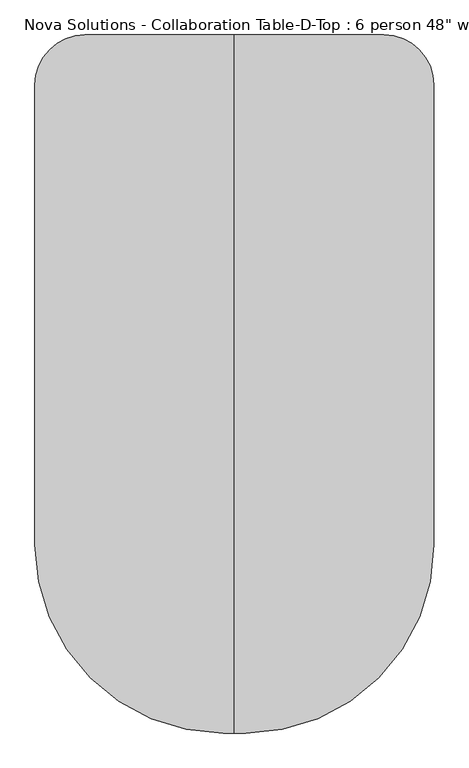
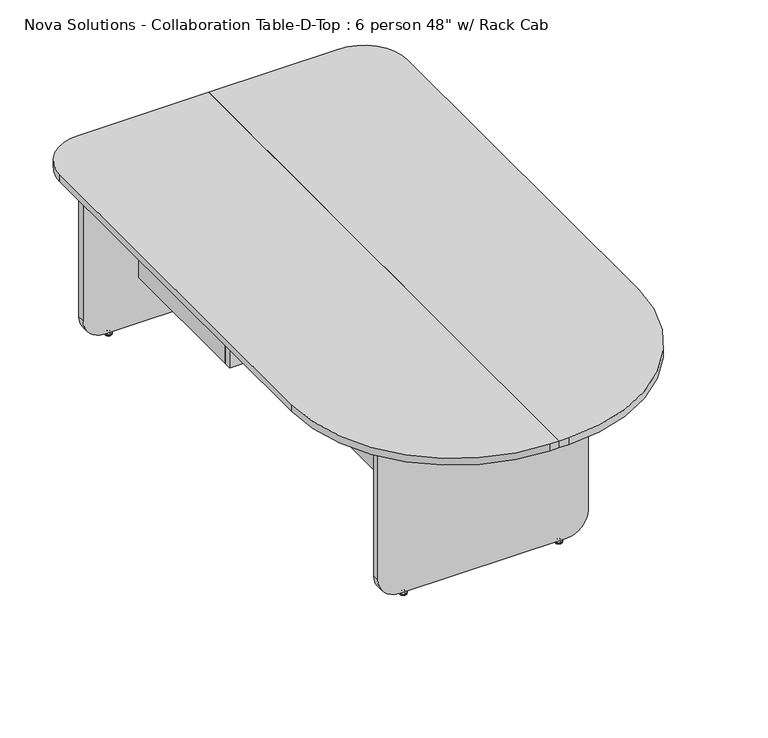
"""IFC4 building model written with IfcOpenShell, lengths in millimetres: furniture geometry."""

import ifcopenshell
import ifcopenshell.guid

model = None  # the IFC model being written
_history = None  # IfcOwnerHistory: only IFC2X3 demands one
_inside = {}  # id of a spatial element -> (the spatial element, [elements in it])
_under = {}  # id of a project, library or spatial element -> (it, [spatial elements below it])
_declared = {}  # id of a project -> (the project, [libraries it declares])
_typed = {}  # id of a type object -> (the type object, [elements of that type])
_made_of = {}  # id of a material, layer set ... -> (it, [elements and type objects made of it])


def new_model(schema):
    """Start an empty IFC model of exactly this schema.

    Asked for "IFC4X3", IfcOpenShell would pick the latest addendum, in which some entities
    have other attributes; the version numbers below select the first issue.
    IFC2X3 requires an IfcOwnerHistory on every rooted entity: one is made here for all.
    """
    global model, _history
    if schema == "IFC4X3":
        model = ifcopenshell.file(schema_version=(4, 3, 0, 0))
    else:
        model = ifcopenshell.file(schema=schema)
    _inside.clear()
    _under.clear()
    _declared.clear()
    _typed.clear()
    _made_of.clear()
    _history = None
    if model.schema == "IFC2X3":
        org = make("IfcOrganization", Name="unknown")
        user = make(
            "IfcPersonAndOrganization",
            ThePerson=make("IfcPerson", FamilyName="unknown"),
            TheOrganization=org,
        )
        app = make(
            "IfcApplication",
            ApplicationDeveloper=org,
            Version="unknown",
            ApplicationFullName="unknown",
            ApplicationIdentifier="unknown",
        )
        _history = make(
            "IfcOwnerHistory",
            OwningUser=user,
            OwningApplication=app,
            ChangeAction="ADDED",
            CreationDate=0,
        )
    return model


def make(cls, **values):
    """One entity of the class cls with the attributes given. An attribute that is None is left unset."""
    return model.create_entity(
        cls, **{name: value for name, value in values.items() if value is not None}
    )


def rooted(cls, **values):
    """An entity with a GlobalId (a new one), such as an element, a storey or a relation."""
    return make(cls, GlobalId=ifcopenshell.guid.new(), OwnerHistory=_history, **values)


def si_unit(unit_type, name, prefix=None):
    """IfcSIUnit, for example si_unit("LENGTHUNIT", "METRE", prefix="MILLI")."""
    return make("IfcSIUnit", UnitType=unit_type, Prefix=prefix, Name=name)


def assignment(units):
    """IfcUnitAssignment: the units of a project."""
    return None if units is None else make("IfcUnitAssignment", Units=units)


def point(xyz):
    """IfcCartesianPoint."""
    return None if xyz is None else make("IfcCartesianPoint", Coordinates=xyz)


def direction(xyz):
    """IfcDirection."""
    return None if xyz is None else make("IfcDirection", DirectionRatios=xyz)


def frame(location, z_axis=None, x_axis=None):
    """IfcAxis2Placement3D, a coordinate frame: its origin and axes. An axis left out is left unset."""
    return make(
        "IfcAxis2Placement3D",
        Location=point(location),
        Axis=direction(z_axis),
        RefDirection=direction(x_axis),
    )


def frame_2d(location, x_axis=None):
    """IfcAxis2Placement2D, a coordinate frame in the plane: its origin and x axis."""
    return make(
        "IfcAxis2Placement2D", Location=point(location), RefDirection=direction(x_axis)
    )


def origin():
    """The frame at (0, 0, 0) with its axes left unset."""
    return frame((0.0, 0.0, 0.0))


def place(relative_to, where):
    """IfcLocalPlacement: puts the frame where relative to a parent placement (None: the world)."""
    return make(
        "IfcLocalPlacement", PlacementRelTo=relative_to, RelativePlacement=where
    )


def context(
    kind, dimensions, precision=None, world=None, true_north=None, identifier=None
):
    """IfcGeometricRepresentationContext, for example the 3D "Model" context."""
    return make(
        "IfcGeometricRepresentationContext",
        ContextIdentifier=identifier,
        ContextType=kind,
        CoordinateSpaceDimension=dimensions,
        Precision=precision,
        WorldCoordinateSystem=world,
        TrueNorth=true_north,
    )


def project(units=None, contexts=None):
    """IfcProject with its units and contexts."""
    return rooted(
        "IfcProject",
        Name="project",
        RepresentationContexts=contexts,
        UnitsInContext=assignment(units),
    )


def spatial(cls, under=None, at=None, **own):
    """A site, building, storey or space (cls), placed at a placement, below another one or the project."""
    s = rooted(cls, ObjectPlacement=at, **own)
    if under is not None:
        _under.setdefault(under.id(), (under, []))[1].append(s)
    return s


def polyline(points):
    """IfcPolyline through the points."""
    return make("IfcPolyline", Points=[point(p) for p in points])


def circle_curve(where, radius):
    """IfcCircle in the frame where."""
    return make("IfcCircle", Position=where, Radius=radius)


def ellipse_curve(where, semi_axis1, semi_axis2):
    """IfcEllipse in the frame where."""
    return make(
        "IfcEllipse", Position=where, SemiAxis1=semi_axis1, SemiAxis2=semi_axis2
    )


def trimmed(basis, trim1, trim2, sense, master):
    """IfcTrimmedCurve: the piece of a basis curve between two trims."""
    return make(
        "IfcTrimmedCurve",
        BasisCurve=basis,
        Trim1=trim1,
        Trim2=trim2,
        SenseAgreement=sense,
        MasterRepresentation=master,
    )


def segment(curve, same_sense, transition):
    """IfcCompositeCurveSegment."""
    return make(
        "IfcCompositeCurveSegment",
        Transition=transition,
        SameSense=same_sense,
        ParentCurve=curve,
    )


def composite_curve(segments, self_intersect=None):
    """IfcCompositeCurve: segments joined end to end."""
    return make("IfcCompositeCurve", Segments=segments, SelfIntersect=self_intersect)


def outline(outer, holes=None, kind="AREA"):
    """IfcArbitraryClosedProfileDef: a profile drawn as a closed curve; with holes, ...WithVoids."""
    if holes is None:
        return make("IfcArbitraryClosedProfileDef", ProfileType=kind, OuterCurve=outer)
    return make(
        "IfcArbitraryProfileDefWithVoids",
        ProfileType=kind,
        OuterCurve=outer,
        InnerCurves=holes,
    )


def extrude(swept, where, along, depth):
    """IfcExtrudedAreaSolid: the profile swept, set in the frame where, extruded along a direction by depth."""
    return make(
        "IfcExtrudedAreaSolid",
        SweptArea=swept,
        Position=where,
        ExtrudedDirection=direction(along),
        Depth=depth,
    )


def shape(context_of_items, identifier, shape_type, items):
    """IfcShapeRepresentation: the items that make up one representation, for example the "Body"."""
    return make(
        "IfcShapeRepresentation",
        ContextOfItems=context_of_items,
        RepresentationIdentifier=identifier,
        RepresentationType=shape_type,
        Items=items,
    )


def source(mapping_origin, context_of_items, identifier, shape_type, items):
    """IfcRepresentationMap: a shape defined once, which mapped items show again and again."""
    return make(
        "IfcRepresentationMap",
        MappingOrigin=mapping_origin,
        MappedRepresentation=shape(context_of_items, identifier, shape_type, items),
    )


def transform(
    local_origin,
    x_axis=None,
    y_axis=None,
    z_axis=None,
    scale=None,
    scale2=None,
    scale3=None,
    uniform=True,
):
    """IfcCartesianTransformationOperator3D, or its non-uniform kind. x_axis, y_axis, z_axis: its Axis1, 2, 3."""
    if uniform:
        return make(
            "IfcCartesianTransformationOperator3D",
            Axis1=direction(x_axis),
            Axis2=direction(y_axis),
            LocalOrigin=point(local_origin),
            Scale=scale,
            Axis3=direction(z_axis),
        )
    return make(
        "IfcCartesianTransformationOperator3DnonUniform",
        Axis1=direction(x_axis),
        Axis2=direction(y_axis),
        LocalOrigin=point(local_origin),
        Scale=scale,
        Axis3=direction(z_axis),
        Scale2=scale2,
        Scale3=scale3,
    )


def mapped(mapping_source, mapping_target):
    """IfcMappedItem: shows the shape of a source again, moved by a transform."""
    return make(
        "IfcMappedItem", MappingSource=mapping_source, MappingTarget=mapping_target
    )


def made_of(thing, what):
    """Note that an element or type object is made of a material, layer set ...; save() writes the relation."""
    if what is not None:
        _made_of.setdefault(what.id(), (what, []))[1].append(thing)
    return thing


def element(
    cls,
    number,
    at=None,
    inside=None,
    cuts=None,
    type_object=None,
    material=None,
    context=None,
    identifier="Body",
    shape_type=None,
    held_by="IfcProductDefinitionShape",
    body=None,
    shapes=None,
    **own,
):
    """One element of the class cls, such as IfcWall. Its Tag is "e" and its number.

    at: its placement. inside: the storey or other place that contains it. cuts: it is an
    opening in that element (IfcRelVoidsElement). A single representation is given by context,
    identifier, shape_type and body (its items); several are given by shapes. held_by: the class
    of the entity that holds the representations. save() writes the other relations.
    """
    e = rooted(cls, Tag="e%d" % number, ObjectPlacement=at, **own)
    if body is not None:
        shapes = [shape(context, identifier, shape_type, body)]
    if shapes is not None:
        e.Representation = make(held_by, Representations=shapes)
    if inside is not None:
        _inside.setdefault(inside.id(), (inside, []))[1].append(e)
    if cuts is not None:
        rooted(
            "IfcRelVoidsElement", RelatingBuildingElement=cuts, RelatedOpeningElement=e
        )
    if type_object is not None:
        _typed.setdefault(type_object.id(), (type_object, []))[1].append(e)
    return made_of(e, material)


def aggregate(whole, parts):
    """IfcRelAggregates: a whole, such as a stair, and the parts it consists of."""
    return rooted("IfcRelAggregates", RelatingObject=whole, RelatedObjects=parts)


def save(model, path):
    """Write the relations noted so far, then the file.

    IfcRelAggregates (storeys below a building ...), IfcRelContainedInSpatialStructure (elements
    in a storey), IfcRelDefinesByType, IfcRelAssociatesMaterial and IfcRelDeclares: one each for
    every whole, place, type object, material and project.
    """
    for whole, parts in _under.values():
        aggregate(whole, parts)
    for where, things in _inside.values():
        rooted(
            "IfcRelContainedInSpatialStructure",
            RelatedElements=things,
            RelatingStructure=where,
        )
    for kind, things in _typed.values():
        rooted("IfcRelDefinesByType", RelatedObjects=things, RelatingType=kind)
    for what, things in _made_of.values():
        rooted("IfcRelAssociatesMaterial", RelatedObjects=things, RelatingMaterial=what)
    for by, libraries in _declared.values():
        rooted("IfcRelDeclares", RelatingContext=by, RelatedDefinitions=libraries)
    model.write(path)


def plane_surface(at):
    """IfcPlane: the flat surface through the origin of the frame at, square to its z axis."""
    return make("IfcPlane", Position=at)


def cylinder_surface(at, radius):
    """IfcCylindricalSurface: all points at the distance radius from the z axis of the frame at."""
    return make("IfcCylindricalSurface", Position=at, Radius=radius)


def revolved_surface(curve, axis_point, axis_direction):
    """IfcSurfaceOfRevolution: the curve turned about the line through axis_point along axis_direction."""
    return make(
        "IfcSurfaceOfRevolution",
        SweptCurve=make("IfcArbitraryOpenProfileDef", ProfileType="CURVE", Curve=curve),
        AxisPosition=make("IfcAxis1Placement", Location=point(axis_point), Axis=direction(axis_direction)),
    )


def advanced_brep(points, edges, surfaces, faces):
    """IfcAdvancedBrep: a solid bounded by faces that lie on surfaces and meet in shared edges.

    An edge is (start, end): straight between two places in points (the first is 0);
    or (start, end, curve); or (start, end, curve, False) where it runs against its curve.
    A face is (place in surfaces, loops), or (place, loops, False) where it looks against
    its surface's normal. A loop lists edges by number (the first is 1), with a minus sign
    where the edge is run from its end to its start. The first loop is the outer one.
    """
    corners = [point(p) for p in points]
    vertices = [make("IfcVertexPoint", VertexGeometry=c) for c in corners]
    made = []
    for start, end, *more in edges:
        made.append(
            make(
                "IfcEdgeCurve",
                EdgeStart=vertices[start],
                EdgeEnd=vertices[end],
                EdgeGeometry=more[0] if more else make("IfcPolyline", Points=[corners[start], corners[end]]),
                SameSense=more[1] if len(more) > 1 else True,
            )
        )
    hull = []
    for where, loops, *sense in faces:
        bounds = []
        for j, loop in enumerate(loops):
            ring = [make("IfcOrientedEdge", EdgeElement=made[abs(k) - 1], Orientation=k > 0) for k in loop]
            bounds.append(
                make(
                    "IfcFaceOuterBound" if j == 0 else "IfcFaceBound",
                    Bound=make("IfcEdgeLoop", EdgeList=ring),
                    Orientation=True,
                )
            )
        hull.append(make("IfcAdvancedFace", Bounds=bounds, FaceSurface=surfaces[where], SameSense=sense[0] if sense else True))
    return make("IfcAdvancedBrep", Outer=make("IfcClosedShell", CfsFaces=hull))


def furniture_79b6fda6(model_context):
    return source(origin(), model_context, "Body", "SolidModel", [
        extrude(outline(polyline([(-261.75, 1038.2), (-245.55, 1038.2), (-245.55, 510.8), (-261.75, 510.8), (-261.75, 1038.2)])), frame((0.0, 0.0, 181.85), z_axis=(0.0, 0.0, 1.0), x_axis=(1.0, 0.0, 0.0)), (0.0, 0.0, 1.0), 553.0),
        extrude(outline(polyline([(245.55, 1038.2), (261.75, 1038.2), (261.75, 510.8), (245.55, 510.8), (245.55, 1038.2)])), frame((0.0, 0.0, 181.85), z_axis=(0.0, 0.0, 1.0), x_axis=(1.0, 0.0, 0.0)), (0.0, 0.0, 1.0), 553.0),
        extrude(outline(polyline([(-136.57, 485.1), (-136.57, -576.1), (-152.77, -576.1), (-152.77, 485.1), (-136.57, 485.1)])), frame((0.0, 0.0, 181.85), z_axis=(0.0, 0.0, 1.0), x_axis=(1.0, 0.0, 0.0)), (0.0, 0.0, 1.0), 553.0),
        extrude(outline(polyline([(136.57, 485.1), (152.77, 485.1), (152.77, -576.1), (136.57, -576.1), (136.57, 485.1)])), frame((0.0, 0.0, 181.85), z_axis=(0.0, 0.0, 1.0), x_axis=(1.0, 0.0, 0.0)), (0.0, 0.0, 1.0), 553.0),
        advanced_brep(
        [(361.0578125, 1057.7276506, 11.1125), (361.0578125, 1044.3723494, 11.1125), (361.0578125, 1051.05, 11.1125), (361.0578125, 1057.7276506, 9.525), (361.0578125, 1044.3723494, 9.525), (361.0578125, 1062.9355135, 4.7748687), (361.0578125, 1039.1644865, 4.7748687), (361.0578125, 1063.7966506, 3.989419), (361.0578125, 1038.3033494, 3.989419), (361.0578125, 1063.7966506, 3.175), (361.0578125, 1038.3033494, 3.175), (361.0578125, 1062.9459119, 0.0), (361.0578125, 1039.1540881, 0.0), (361.0578125, 1051.05, 0.0)],
        [
            (0, 1, circle_curve(frame((361.0578125, 1051.05, 11.1125), z_axis=(0.0, 0.0, 1.0), x_axis=(0.0, -1.0, 0.0)), 6.6776506)),
            (1, 2),
            (2, 0),
            (1, 0, circle_curve(frame((361.0578125, 1051.05, 11.1125), z_axis=(0.0, 0.0, 1.0), x_axis=(0.0, -1.0, 0.0)), 6.6776506)),
            (3, 4, circle_curve(frame((361.0578125, 1051.05, 9.525), z_axis=(0.0, 0.0, 1.0), x_axis=(0.0, -1.0, 0.0)), 6.6776506)),
            (4, 1),
            (0, 3),
            (4, 3, circle_curve(frame((361.0578125, 1051.05, 9.525), z_axis=(0.0, 0.0, 1.0), x_axis=(0.0, -1.0, 0.0)), 6.6776506)),
            (5, 6, circle_curve(frame((361.0578125, 1051.05, 4.7748687), z_axis=(0.0, 0.0, 1.0), x_axis=(0.0, -1.0, 0.0)), 11.8855135)),
            (6, 4, circle_curve(frame((361.0578125, 1038.1179373, 11.1521822), z_axis=(1.0, 0.0, 0.0), x_axis=(0.0, 1.0, 0.0)), 6.462615)),
            (3, 5, circle_curve(frame((361.0578125, 1063.9820627, 11.1521822), z_axis=(1.0, 0.0, 0.0), x_axis=(0.0, -1.0, 0.0)), 6.462615)),
            (6, 5, circle_curve(frame((361.0578125, 1051.05, 4.7748687), z_axis=(0.0, 0.0, 1.0), x_axis=(0.0, -1.0, 0.0)), 11.8855135)),
            (7, 8, circle_curve(frame((361.0578125, 1051.05, 3.989419), z_axis=(0.0, 0.0, 1.0), x_axis=(0.0, -1.0, 0.0)), 12.7466506)),
            (8, 6, circle_curve(frame((361.0578125, 1039.3375368, 3.7203591), z_axis=(-1.0, 0.0, 0.0), x_axis=(0.0, 1.0, 0.0)), 1.0686145)),
            (5, 7, circle_curve(frame((361.0578125, 1062.7624632, 3.7203591), z_axis=(-1.0, 0.0, 0.0), x_axis=(0.0, -1.0, 0.0)), 1.0686145)),
            (8, 7, circle_curve(frame((361.0578125, 1051.05, 3.989419), z_axis=(0.0, 0.0, 1.0), x_axis=(0.0, -1.0, 0.0)), 12.7466506)),
            (9, 10, circle_curve(frame((361.0578125, 1051.05, 3.175), z_axis=(0.0, 0.0, 1.0), x_axis=(0.0, -1.0, 0.0)), 12.7466506)),
            (10, 8),
            (7, 9),
            (10, 9, circle_curve(frame((361.0578125, 1051.05, 3.175), z_axis=(0.0, 0.0, 1.0), x_axis=(0.0, -1.0, 0.0)), 12.7466506)),
            (11, 12, circle_curve(frame((361.0578125, 1051.05, 0.0), z_axis=(0.0, 0.0, 1.0), x_axis=(0.0, -1.0, 0.0)), 11.8959119)),
            (12, 10),
            (9, 11),
            (12, 11, circle_curve(frame((361.0578125, 1051.05, 0.0), z_axis=(0.0, 0.0, 1.0), x_axis=(0.0, -1.0, 0.0)), 11.8959119)),
            (13, 12),
            (11, 13),
        ],
        [
            plane_surface(frame((361.0578125, 1051.05, 11.1125), z_axis=(0.0, 0.0, 1.0), x_axis=(0.0, -1.0, 0.0))),
            cylinder_surface(frame((361.0578125, 1051.05, 43.2095994), z_axis=(0.0, 0.0, -1.0), x_axis=(0.0, -1.0, 0.0)), 6.6776506),
            revolved_surface(trimmed(ellipse_curve(frame((361.0578125, 1038.1179373, 11.1521822), z_axis=(-1.0, 0.0, 0.0), x_axis=(0.0, 1.0, 0.0)), 6.462615, 6.462615), [point((361.0578125, 1044.3723494, 9.525))], [point((361.0578125, 1039.1644865, 4.7748687))], True, "CARTESIAN"), (361.0578125, 1051.05, 43.2095994), (0.0, 0.0, -1.0)),
            revolved_surface(trimmed(ellipse_curve(frame((361.0578125, 1039.3375368, 3.7203591), z_axis=(1.0, 0.0, 0.0), x_axis=(0.0, 1.0, 0.0)), 1.0686145, 1.0686145), [point((361.0578125, 1039.1644865, 4.7748687))], [point((361.0578125, 1038.3033494, 3.989419))], True, "CARTESIAN"), (361.0578125, 1051.05, 43.2095994), (0.0, 0.0, -1.0)),
            cylinder_surface(frame((361.0578125, 1051.05, 43.2095994), z_axis=(0.0, 0.0, -1.0), x_axis=(0.0, -1.0, 0.0)), 12.7466506),
            revolved_surface(polyline([(361.0578125, 1038.3033494, 3.175), (361.0578125, 1039.1540881, 0.0)]), (361.0578125, 1051.05, 43.2095994), (0.0, 0.0, -1.0)),
            plane_surface(frame((361.0578125, 1051.05, 0.0), z_axis=(0.0, 0.0, -1.0), x_axis=(0.0, -1.0, 0.0))),
        ],
        [
            (0, [[1, 2, 3]]),
            (0, [[4, -3, -2]]),
            (1, [[5, 6, -1, 7]]),
            (1, [[8, -7, -4, -6]]),
            (2, [[9, 10, -5, 11]]),
            (2, [[12, -11, -8, -10]]),
            (3, [[13, 14, -9, 15]]),
            (3, [[16, -15, -12, -14]]),
            (4, [[17, 18, -13, 19]]),
            (4, [[20, -19, -16, -18]]),
            (5, [[21, 22, -17, 23]]),
            (5, [[24, -23, -20, -22]]),
            (6, [[25, -21, 26]]),
            (6, [[-26, -24, -25]]),
        ],
    ),
        advanced_brep(
        [(-361.0578125, 1057.7276506, 11.1125), (-361.0578125, 1044.3723494, 11.1125), (-361.0578125, 1051.05, 11.1125), (-361.0578125, 1057.7276506, 9.525), (-361.0578125, 1044.3723494, 9.525), (-361.0578125, 1062.9355135, 4.7748687), (-361.0578125, 1039.1644865, 4.7748687), (-361.0578125, 1063.7966506, 3.989419), (-361.0578125, 1038.3033494, 3.989419), (-361.0578125, 1063.7966506, 3.175), (-361.0578125, 1038.3033494, 3.175), (-361.0578125, 1062.9459119, 0.0), (-361.0578125, 1039.1540881, 0.0), (-361.0578125, 1051.05, 0.0)],
        [
            (0, 1, circle_curve(frame((-361.0578125, 1051.05, 11.1125), z_axis=(0.0, 0.0, 1.0), x_axis=(0.0, -1.0, 0.0)), 6.6776506)),
            (1, 2),
            (2, 0),
            (1, 0, circle_curve(frame((-361.0578125, 1051.05, 11.1125), z_axis=(0.0, 0.0, 1.0), x_axis=(0.0, -1.0, 0.0)), 6.6776506)),
            (3, 4, circle_curve(frame((-361.0578125, 1051.05, 9.525), z_axis=(0.0, 0.0, 1.0), x_axis=(0.0, -1.0, 0.0)), 6.6776506)),
            (4, 1),
            (0, 3),
            (4, 3, circle_curve(frame((-361.0578125, 1051.05, 9.525), z_axis=(0.0, 0.0, 1.0), x_axis=(0.0, -1.0, 0.0)), 6.6776506)),
            (5, 6, circle_curve(frame((-361.0578125, 1051.05, 4.7748687), z_axis=(0.0, 0.0, 1.0), x_axis=(0.0, -1.0, 0.0)), 11.8855135)),
            (6, 4, circle_curve(frame((-361.0578125, 1038.1179373, 11.1521822), z_axis=(1.0, 0.0, 0.0), x_axis=(0.0, 1.0, 0.0)), 6.462615)),
            (3, 5, circle_curve(frame((-361.0578125, 1063.9820627, 11.1521822), z_axis=(1.0, 0.0, 0.0), x_axis=(0.0, -1.0, 0.0)), 6.462615)),
            (6, 5, circle_curve(frame((-361.0578125, 1051.05, 4.7748687), z_axis=(0.0, 0.0, 1.0), x_axis=(0.0, -1.0, 0.0)), 11.8855135)),
            (7, 8, circle_curve(frame((-361.0578125, 1051.05, 3.989419), z_axis=(0.0, 0.0, 1.0), x_axis=(0.0, -1.0, 0.0)), 12.7466506)),
            (8, 6, circle_curve(frame((-361.0578125, 1039.3375368, 3.7203591), z_axis=(-1.0, 0.0, 0.0), x_axis=(0.0, 1.0, 0.0)), 1.0686145)),
            (5, 7, circle_curve(frame((-361.0578125, 1062.7624632, 3.7203591), z_axis=(-1.0, 0.0, 0.0), x_axis=(0.0, -1.0, 0.0)), 1.0686145)),
            (8, 7, circle_curve(frame((-361.0578125, 1051.05, 3.989419), z_axis=(0.0, 0.0, 1.0), x_axis=(0.0, -1.0, 0.0)), 12.7466506)),
            (9, 10, circle_curve(frame((-361.0578125, 1051.05, 3.175), z_axis=(0.0, 0.0, 1.0), x_axis=(0.0, -1.0, 0.0)), 12.7466506)),
            (10, 8),
            (7, 9),
            (10, 9, circle_curve(frame((-361.0578125, 1051.05, 3.175), z_axis=(0.0, 0.0, 1.0), x_axis=(0.0, -1.0, 0.0)), 12.7466506)),
            (11, 12, circle_curve(frame((-361.0578125, 1051.05, 0.0), z_axis=(0.0, 0.0, 1.0), x_axis=(0.0, -1.0, 0.0)), 11.8959119)),
            (12, 10),
            (9, 11),
            (12, 11, circle_curve(frame((-361.0578125, 1051.05, 0.0), z_axis=(0.0, 0.0, 1.0), x_axis=(0.0, -1.0, 0.0)), 11.8959119)),
            (13, 12),
            (11, 13),
        ],
        [
            plane_surface(frame((-361.0578125, 1051.05, 11.1125), z_axis=(0.0, 0.0, 1.0), x_axis=(0.0, -1.0, 0.0))),
            cylinder_surface(frame((-361.0578125, 1051.05, 43.2095994), z_axis=(0.0, 0.0, -1.0), x_axis=(0.0, -1.0, 0.0)), 6.6776506),
            revolved_surface(trimmed(ellipse_curve(frame((-361.0578125, 1038.1179373, 11.1521822), z_axis=(-1.0, 0.0, 0.0), x_axis=(0.0, 1.0, 0.0)), 6.462615, 6.462615), [point((-361.0578125, 1044.3723494, 9.525))], [point((-361.0578125, 1039.1644865, 4.7748687))], True, "CARTESIAN"), (-361.0578125, 1051.05, 43.2095994), (0.0, 0.0, -1.0)),
            revolved_surface(trimmed(ellipse_curve(frame((-361.0578125, 1039.3375368, 3.7203591), z_axis=(1.0, 0.0, 0.0), x_axis=(0.0, 1.0, 0.0)), 1.0686145, 1.0686145), [point((-361.0578125, 1039.1644865, 4.7748687))], [point((-361.0578125, 1038.3033494, 3.989419))], True, "CARTESIAN"), (-361.0578125, 1051.05, 43.2095994), (0.0, 0.0, -1.0)),
            cylinder_surface(frame((-361.0578125, 1051.05, 43.2095994), z_axis=(0.0, 0.0, -1.0), x_axis=(0.0, -1.0, 0.0)), 12.7466506),
            revolved_surface(polyline([(-361.0578125, 1038.3033494, 3.175), (-361.0578125, 1039.1540881, 0.0)]), (-361.0578125, 1051.05, 43.2095994), (0.0, 0.0, -1.0)),
            plane_surface(frame((-361.0578125, 1051.05, 0.0), z_axis=(0.0, 0.0, -1.0), x_axis=(0.0, -1.0, 0.0))),
        ],
        [
            (0, [[1, 2, 3]]),
            (0, [[4, -3, -2]]),
            (1, [[5, 6, -1, 7]]),
            (1, [[8, -7, -4, -6]]),
            (2, [[9, 10, -5, 11]]),
            (2, [[12, -11, -8, -10]]),
            (3, [[13, 14, -9, 15]]),
            (3, [[16, -15, -12, -14]]),
            (4, [[17, 18, -13, 19]]),
            (4, [[20, -19, -16, -18]]),
            (5, [[21, 22, -17, 23]]),
            (5, [[24, -23, -20, -22]]),
            (6, [[25, -21, 26]]),
            (6, [[-26, -24, -25]]),
        ],
    ),
        extrude(outline(composite_curve([segment(polyline([(734.85, 457.1), (734.85, -457.1), (90.15, -457.1)]), True, "CONTINUOUS"), segment(trimmed(circle_curve(frame_2d((90.15, -381.1)), 76.0), [point((90.15, -457.1))], [point((14.15, -381.1))], False, "CARTESIAN"), True, "CONTINUOUS"), segment(polyline([(14.15, -381.1), (14.15, 381.1)]), True, "CONTINUOUS"), segment(trimmed(circle_curve(frame_2d((90.15, 381.1)), 76.0), [point((14.15, 381.1))], [point((90.15, 457.1))], False, "CARTESIAN"), True, "CONTINUOUS"), segment(polyline([(90.15, 457.1), (734.85, 457.1)]), True, "CONTINUOUS")], self_intersect=False)), frame((0.0, 1038.2, 0.0), z_axis=(0.0, 1.0, 0.0), x_axis=(0.0, 0.0, 1.0)), (0.0, 0.0, 1.0), 25.7),
        advanced_brep(
        [(272.9578125, -582.2723494, 11.1125), (272.9578125, -595.6276506, 11.1125), (272.9578125, -588.95, 11.1125), (272.9578125, -582.2723494, 9.525), (272.9578125, -595.6276506, 9.525), (272.9578125, -577.0644865, 4.7748687), (272.9578125, -600.8355135, 4.7748687), (272.9578125, -576.2033494, 3.989419), (272.9578125, -601.6966506, 3.989419), (272.9578125, -576.2033494, 3.175), (272.9578125, -601.6966506, 3.175), (272.9578125, -577.0540881, 0.0), (272.9578125, -600.8459119, 0.0), (272.9578125, -588.95, 0.0)],
        [
            (0, 1, circle_curve(frame((272.9578125, -588.95, 11.1125), z_axis=(0.0, 0.0, 1.0), x_axis=(0.0, -1.0, 0.0)), 6.6776506)),
            (1, 2),
            (2, 0),
            (1, 0, circle_curve(frame((272.9578125, -588.95, 11.1125), z_axis=(0.0, 0.0, 1.0), x_axis=(0.0, -1.0, 0.0)), 6.6776506)),
            (3, 4, circle_curve(frame((272.9578125, -588.95, 9.525), z_axis=(0.0, 0.0, 1.0), x_axis=(0.0, -1.0, 0.0)), 6.6776506)),
            (4, 1),
            (0, 3),
            (4, 3, circle_curve(frame((272.9578125, -588.95, 9.525), z_axis=(0.0, 0.0, 1.0), x_axis=(0.0, -1.0, 0.0)), 6.6776506)),
            (5, 6, circle_curve(frame((272.9578125, -588.95, 4.7748687), z_axis=(0.0, 0.0, 1.0), x_axis=(0.0, -1.0, 0.0)), 11.8855135)),
            (6, 4, circle_curve(frame((272.9578125, -601.8820627, 11.1521822), z_axis=(1.0, 0.0, 0.0), x_axis=(0.0, 1.0, 0.0)), 6.462615)),
            (3, 5, circle_curve(frame((272.9578125, -576.0179373, 11.1521822), z_axis=(1.0, 0.0, 0.0), x_axis=(0.0, -1.0, 0.0)), 6.462615)),
            (6, 5, circle_curve(frame((272.9578125, -588.95, 4.7748687), z_axis=(0.0, 0.0, 1.0), x_axis=(0.0, -1.0, 0.0)), 11.8855135)),
            (7, 8, circle_curve(frame((272.9578125, -588.95, 3.989419), z_axis=(0.0, 0.0, 1.0), x_axis=(0.0, -1.0, 0.0)), 12.7466506)),
            (8, 6, circle_curve(frame((272.9578125, -600.6624632, 3.7203591), z_axis=(-1.0, 0.0, 0.0), x_axis=(0.0, 1.0, 0.0)), 1.0686145)),
            (5, 7, circle_curve(frame((272.9578125, -577.2375368, 3.7203591), z_axis=(-1.0, 0.0, 0.0), x_axis=(0.0, -1.0, 0.0)), 1.0686145)),
            (8, 7, circle_curve(frame((272.9578125, -588.95, 3.989419), z_axis=(0.0, 0.0, 1.0), x_axis=(0.0, -1.0, 0.0)), 12.7466506)),
            (9, 10, circle_curve(frame((272.9578125, -588.95, 3.175), z_axis=(0.0, 0.0, 1.0), x_axis=(0.0, -1.0, 0.0)), 12.7466506)),
            (10, 8),
            (7, 9),
            (10, 9, circle_curve(frame((272.9578125, -588.95, 3.175), z_axis=(0.0, 0.0, 1.0), x_axis=(0.0, -1.0, 0.0)), 12.7466506)),
            (11, 12, circle_curve(frame((272.9578125, -588.95, 0.0), z_axis=(0.0, 0.0, 1.0), x_axis=(0.0, -1.0, 0.0)), 11.8959119)),
            (12, 10),
            (9, 11),
            (12, 11, circle_curve(frame((272.9578125, -588.95, 0.0), z_axis=(0.0, 0.0, 1.0), x_axis=(0.0, -1.0, 0.0)), 11.8959119)),
            (13, 12),
            (11, 13),
        ],
        [
            plane_surface(frame((272.9578125, -588.95, 11.1125), z_axis=(0.0, 0.0, 1.0), x_axis=(0.0, -1.0, 0.0))),
            cylinder_surface(frame((272.9578125, -588.95, 43.2095994), z_axis=(0.0, 0.0, -1.0), x_axis=(0.0, -1.0, 0.0)), 6.6776506),
            revolved_surface(trimmed(ellipse_curve(frame((272.9578125, -601.8820627, 11.1521822), z_axis=(-1.0, 0.0, 0.0), x_axis=(0.0, 1.0, 0.0)), 6.462615, 6.462615), [point((272.9578125, -595.6276506, 9.525))], [point((272.9578125, -600.8355135, 4.7748687))], True, "CARTESIAN"), (272.9578125, -588.95, 43.2095994), (0.0, 0.0, -1.0)),
            revolved_surface(trimmed(ellipse_curve(frame((272.9578125, -600.6624632, 3.7203591), z_axis=(1.0, 0.0, 0.0), x_axis=(0.0, 1.0, 0.0)), 1.0686145, 1.0686145), [point((272.9578125, -600.8355135, 4.7748687))], [point((272.9578125, -601.6966506, 3.989419))], True, "CARTESIAN"), (272.9578125, -588.95, 43.2095994), (0.0, 0.0, -1.0)),
            cylinder_surface(frame((272.9578125, -588.95, 43.2095994), z_axis=(0.0, 0.0, -1.0), x_axis=(0.0, -1.0, 0.0)), 12.7466506),
            revolved_surface(polyline([(272.9578125, -601.6966506, 3.175), (272.9578125, -600.8459119, 0.0)]), (272.9578125, -588.95, 43.2095994), (0.0, 0.0, -1.0)),
            plane_surface(frame((272.9578125, -588.95, 0.0), z_axis=(0.0, 0.0, -1.0), x_axis=(0.0, -1.0, 0.0))),
        ],
        [
            (0, [[1, 2, 3]]),
            (0, [[4, -3, -2]]),
            (1, [[5, 6, -1, 7]]),
            (1, [[8, -7, -4, -6]]),
            (2, [[9, 10, -5, 11]]),
            (2, [[12, -11, -8, -10]]),
            (3, [[13, 14, -9, 15]]),
            (3, [[16, -15, -12, -14]]),
            (4, [[17, 18, -13, 19]]),
            (4, [[20, -19, -16, -18]]),
            (5, [[21, 22, -17, 23]]),
            (5, [[24, -23, -20, -22]]),
            (6, [[25, -21, 26]]),
            (6, [[-26, -24, -25]]),
        ],
    ),
        advanced_brep(
        [(-272.9578125, -582.2723494, 11.1125), (-272.9578125, -595.6276506, 11.1125), (-272.9578125, -588.95, 11.1125), (-272.9578125, -582.2723494, 9.525), (-272.9578125, -595.6276506, 9.525), (-272.9578125, -577.0644865, 4.7748687), (-272.9578125, -600.8355135, 4.7748687), (-272.9578125, -576.2033494, 3.989419), (-272.9578125, -601.6966506, 3.989419), (-272.9578125, -576.2033494, 3.175), (-272.9578125, -601.6966506, 3.175), (-272.9578125, -577.0540881, 0.0), (-272.9578125, -600.8459119, 0.0), (-272.9578125, -588.95, 0.0)],
        [
            (0, 1, circle_curve(frame((-272.9578125, -588.95, 11.1125), z_axis=(0.0, 0.0, 1.0), x_axis=(0.0, -1.0, 0.0)), 6.6776506)),
            (1, 2),
            (2, 0),
            (1, 0, circle_curve(frame((-272.9578125, -588.95, 11.1125), z_axis=(0.0, 0.0, 1.0), x_axis=(0.0, -1.0, 0.0)), 6.6776506)),
            (3, 4, circle_curve(frame((-272.9578125, -588.95, 9.525), z_axis=(0.0, 0.0, 1.0), x_axis=(0.0, -1.0, 0.0)), 6.6776506)),
            (4, 1),
            (0, 3),
            (4, 3, circle_curve(frame((-272.9578125, -588.95, 9.525), z_axis=(0.0, 0.0, 1.0), x_axis=(0.0, -1.0, 0.0)), 6.6776506)),
            (5, 6, circle_curve(frame((-272.9578125, -588.95, 4.7748687), z_axis=(0.0, 0.0, 1.0), x_axis=(0.0, -1.0, 0.0)), 11.8855135)),
            (6, 4, circle_curve(frame((-272.9578125, -601.8820627, 11.1521822), z_axis=(1.0, 0.0, 0.0), x_axis=(0.0, 1.0, 0.0)), 6.462615)),
            (3, 5, circle_curve(frame((-272.9578125, -576.0179373, 11.1521822), z_axis=(1.0, 0.0, 0.0), x_axis=(0.0, -1.0, 0.0)), 6.462615)),
            (6, 5, circle_curve(frame((-272.9578125, -588.95, 4.7748687), z_axis=(0.0, 0.0, 1.0), x_axis=(0.0, -1.0, 0.0)), 11.8855135)),
            (7, 8, circle_curve(frame((-272.9578125, -588.95, 3.989419), z_axis=(0.0, 0.0, 1.0), x_axis=(0.0, -1.0, 0.0)), 12.7466506)),
            (8, 6, circle_curve(frame((-272.9578125, -600.6624632, 3.7203591), z_axis=(-1.0, 0.0, 0.0), x_axis=(0.0, 1.0, 0.0)), 1.0686145)),
            (5, 7, circle_curve(frame((-272.9578125, -577.2375368, 3.7203591), z_axis=(-1.0, 0.0, 0.0), x_axis=(0.0, -1.0, 0.0)), 1.0686145)),
            (8, 7, circle_curve(frame((-272.9578125, -588.95, 3.989419), z_axis=(0.0, 0.0, 1.0), x_axis=(0.0, -1.0, 0.0)), 12.7466506)),
            (9, 10, circle_curve(frame((-272.9578125, -588.95, 3.175), z_axis=(0.0, 0.0, 1.0), x_axis=(0.0, -1.0, 0.0)), 12.7466506)),
            (10, 8),
            (7, 9),
            (10, 9, circle_curve(frame((-272.9578125, -588.95, 3.175), z_axis=(0.0, 0.0, 1.0), x_axis=(0.0, -1.0, 0.0)), 12.7466506)),
            (11, 12, circle_curve(frame((-272.9578125, -588.95, 0.0), z_axis=(0.0, 0.0, 1.0), x_axis=(0.0, -1.0, 0.0)), 11.8959119)),
            (12, 10),
            (9, 11),
            (12, 11, circle_curve(frame((-272.9578125, -588.95, 0.0), z_axis=(0.0, 0.0, 1.0), x_axis=(0.0, -1.0, 0.0)), 11.8959119)),
            (13, 12),
            (11, 13),
        ],
        [
            plane_surface(frame((-272.9578125, -588.95, 11.1125), z_axis=(0.0, 0.0, 1.0), x_axis=(0.0, -1.0, 0.0))),
            cylinder_surface(frame((-272.9578125, -588.95, 43.2095994), z_axis=(0.0, 0.0, -1.0), x_axis=(0.0, -1.0, 0.0)), 6.6776506),
            revolved_surface(trimmed(ellipse_curve(frame((-272.9578125, -601.8820627, 11.1521822), z_axis=(-1.0, 0.0, 0.0), x_axis=(0.0, 1.0, 0.0)), 6.462615, 6.462615), [point((-272.9578125, -595.6276506, 9.525))], [point((-272.9578125, -600.8355135, 4.7748687))], True, "CARTESIAN"), (-272.9578125, -588.95, 43.2095994), (0.0, 0.0, -1.0)),
            revolved_surface(trimmed(ellipse_curve(frame((-272.9578125, -600.6624632, 3.7203591), z_axis=(1.0, 0.0, 0.0), x_axis=(0.0, 1.0, 0.0)), 1.0686145, 1.0686145), [point((-272.9578125, -600.8355135, 4.7748687))], [point((-272.9578125, -601.6966506, 3.989419))], True, "CARTESIAN"), (-272.9578125, -588.95, 43.2095994), (0.0, 0.0, -1.0)),
            cylinder_surface(frame((-272.9578125, -588.95, 43.2095994), z_axis=(0.0, 0.0, -1.0), x_axis=(0.0, -1.0, 0.0)), 12.7466506),
            revolved_surface(polyline([(-272.9578125, -601.6966506, 3.175), (-272.9578125, -600.8459119, 0.0)]), (-272.9578125, -588.95, 43.2095994), (0.0, 0.0, -1.0)),
            plane_surface(frame((-272.9578125, -588.95, 0.0), z_axis=(0.0, 0.0, -1.0), x_axis=(0.0, -1.0, 0.0))),
        ],
        [
            (0, [[1, 2, 3]]),
            (0, [[4, -3, -2]]),
            (1, [[5, 6, -1, 7]]),
            (1, [[8, -7, -4, -6]]),
            (2, [[9, 10, -5, 11]]),
            (2, [[12, -11, -8, -10]]),
            (3, [[13, 14, -9, 15]]),
            (3, [[16, -15, -12, -14]]),
            (4, [[17, 18, -13, 19]]),
            (4, [[20, -19, -16, -18]]),
            (5, [[21, 22, -17, 23]]),
            (5, [[24, -23, -20, -22]]),
            (6, [[25, -21, 26]]),
            (6, [[-26, -24, -25]]),
        ],
    ),
        extrude(outline(composite_curve([segment(polyline([(734.85, 369.0), (734.85, -369.0), (90.15, -369.0)]), True, "CONTINUOUS"), segment(trimmed(circle_curve(frame_2d((90.15, -293.0)), 76.0), [point((90.15, -369.0))], [point((14.15, -293.0))], False, "CARTESIAN"), True, "CONTINUOUS"), segment(polyline([(14.15, -293.0), (14.15, 293.0)]), True, "CONTINUOUS"), segment(trimmed(circle_curve(frame_2d((90.15, 293.0)), 76.0), [point((14.15, 293.0))], [point((90.15, 369.0))], False, "CARTESIAN"), True, "CONTINUOUS"), segment(polyline([(90.15, 369.0), (734.85, 369.0)]), True, "CONTINUOUS")], self_intersect=False)), frame((0.0, -601.8, 0.0), z_axis=(0.0, 1.0, 0.0), x_axis=(0.0, 0.0, 1.0)), (0.0, 0.0, 1.0), 25.7),
        extrude(outline(polyline([(-261.75, 510.8), (261.75, 510.8), (261.75, 485.1), (-261.75, 485.1), (-261.75, 510.8)])), frame((0.0, 0.0, 181.85), z_axis=(0.0, 0.0, 1.0), x_axis=(1.0, 0.0, 0.0)), (0.0, 0.0, 1.0), 553.0),
        extrude(outline(composite_curve([segment(trimmed(circle_curve(frame_2d((34.6, -491.8)), 575.0), [point((609.6, -491.8))], [point((34.6, -1066.8))], False, "CARTESIAN"), True, "CONTINUOUS"), segment(polyline([(34.6, -1066.8), (0.0, -1066.8), (0.0, 1066.8), (457.2, 1066.8)]), True, "CONTINUOUS"), segment(trimmed(circle_curve(frame_2d((457.2, 914.4)), 152.4), [point((457.2, 1066.8))], [point((609.6, 914.4))], False, "CARTESIAN"), True, "CONTINUOUS"), segment(polyline([(609.6, 914.4), (609.6, -491.8)]), True, "CONTINUOUS")], self_intersect=False)), frame((0.0, 0.0, 734.85), z_axis=(0.0, 0.0, 1.0), x_axis=(1.0, 0.0, 0.0)), (0.0, 0.0, 1.0), 25.7),
        extrude(outline(composite_curve([segment(polyline([(0.0, 1066.8), (0.0, -1066.8), (-34.6, -1066.8)]), True, "CONTINUOUS"), segment(trimmed(circle_curve(frame_2d((-34.6, -491.8)), 575.0), [point((-34.6, -1066.8))], [point((-609.6, -491.8))], False, "CARTESIAN"), True, "CONTINUOUS"), segment(polyline([(-609.6, -491.8), (-609.6, 914.4)]), True, "CONTINUOUS"), segment(trimmed(circle_curve(frame_2d((-457.2, 914.4)), 152.4), [point((-609.6, 914.4))], [point((-457.2, 1066.8))], False, "CARTESIAN"), True, "CONTINUOUS"), segment(polyline([(-457.2, 1066.8), (0.0, 1066.8)]), True, "CONTINUOUS")], self_intersect=False)), frame((0.0, 0.0, 734.85), z_axis=(0.0, 0.0, 1.0), x_axis=(1.0, 0.0, 0.0)), (0.0, 0.0, 1.0), 25.7),
    ])


if __name__ == "__main__":
    model = new_model("IFC4")
    model_context = context("Model", 3, world=origin())
    ifc_project = project(units=[si_unit("LENGTHUNIT", "METRE", prefix="MILLI")], contexts=[model_context])
    site = spatial("IfcSite", under=ifc_project)
    building = spatial("IfcBuilding", under=site)
    placement = place(None, origin())
    furniture_shape = furniture_79b6fda6(model_context)
    element("IfcFurniture", 1, ObjectType="Nova Solutions - Collaboration Table-D-Top : 6 person 48\" w/ Rack Cab", at=placement, inside=building, context=model_context, shape_type="MappedRepresentation", body=[
        mapped(furniture_shape, transform((0.0, 0.0, 0.0), x_axis=(1.0, 0.0, 0.0), y_axis=(0.0, 1.0, 0.0), z_axis=(0.0, 0.0, 1.0))),
    ])
    save(model, "model.ifc")
